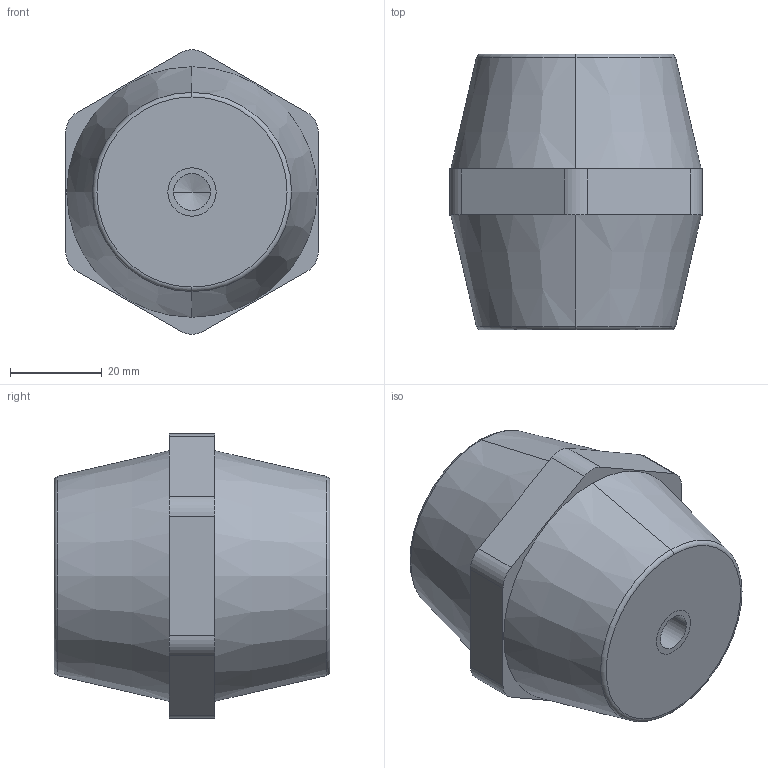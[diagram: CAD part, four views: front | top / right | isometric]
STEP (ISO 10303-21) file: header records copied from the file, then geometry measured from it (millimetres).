
FILE_DESCRIPTION (( 'STEP AP203' ), '1' );
FILE_NAME ('Isolatore 6059 55X60-M8.STEP', '2024-10-28T23:09:27', ( '' ), ( '' ), 'SwSTEP 2.0', 'SolidWorks 2020', '' );
FILE_SCHEMA (( 'CONFIG_CONTROL_DESIGN' ));
Length unit declared in the file: millimetre
Products named in the file (1): Isolatore 6059 55X60-M8
Bounding box: 55 x 60 x 61.96 mm (x, y, z)
Volume: 118113.4 mm3; surface area: 17441.3 mm2
Topology: 3 solids, 3 shells, 87 faces, 191 edges, 116 vertices
Faces by surface type: cylinder 43, plane 24, cone 16, torus 4
Entity records: 2408 total; most frequent: DIRECTION 457, CARTESIAN_POINT 383, ORIENTED_EDGE 358, AXIS2_PLACEMENT_3D 190, EDGE_CURVE 179, VERTEX_POINT 116, EDGE_LOOP 105, CIRCLE 102
